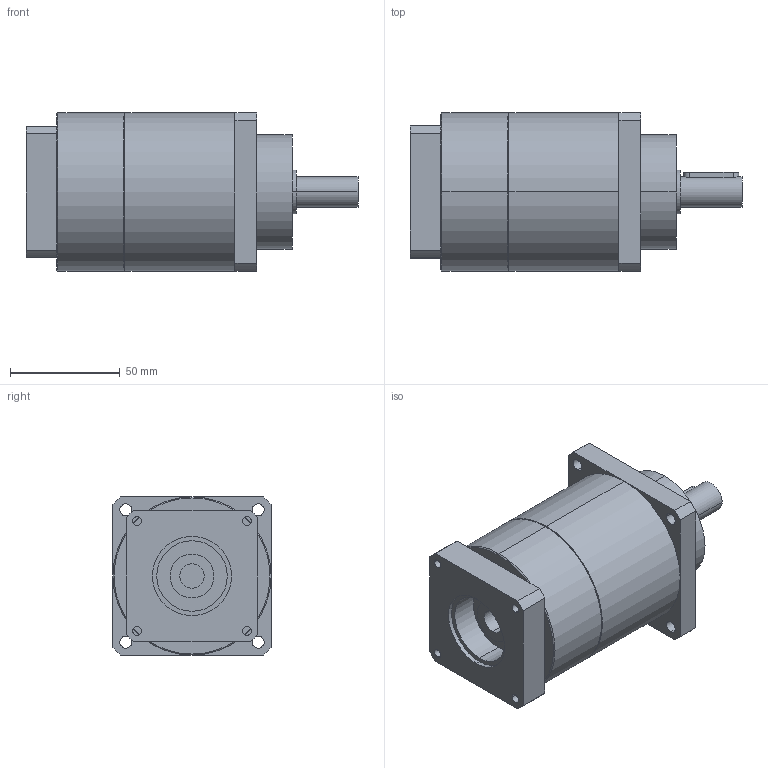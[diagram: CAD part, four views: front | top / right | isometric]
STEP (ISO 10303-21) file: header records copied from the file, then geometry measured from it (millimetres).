
FILE_DESCRIPTION(('CoCreate Modeling STEP Export'),'2;1');
FILE_NAME('GPT75_ig-9-12-16-20-25-28-35-40-50-70-100_14_B5T_11_P35.stp','2014-08-27T13:34:53',(''),(''),'CoCreate Modeling STEP processor for AP214 (Solid Model)','CoCreate Modeling 16.00C 25-Feb-2009 (C) Parametric Technology GmbH','');
FILE_SCHEMA(('AUTOMOTIVE_DESIGN { 1 0 10303 214 1 1 1 1 }'));
Length unit declared in the file: millimetre
Products named in the file (2): GPT75_ig-9-12-16-20-25-28-35-40-50-70-100_14_B5T_11_P35
Assembly tree (1 placements, depth 2):
  GPT75_ig-9-12-16-20-25-28-35-40-50-70-100_14_B5T_11_P35
    GPT75_ig-9-12-16-20-25-28-35-40-50-70-100_14_B5T_11_P35
Bounding box: 151 x 72 x 72 mm (x, y, z)
Volume: 455059 mm3; surface area: 43348.7 mm2
Topology: 1 solids, 1 shells, 88 faces, 226 edges, 145 vertices
Faces by surface type: cylinder 46, plane 38, cone 4
Entity records: 2676 total; most frequent: CARTESIAN_POINT 744, ORIENTED_EDGE 452, DIRECTION 334, EDGE_CURVE 226, VERTEX_POINT 145, AXIS2_PLACEMENT_3D 123, EDGE_LOOP 109, VECTOR 88
